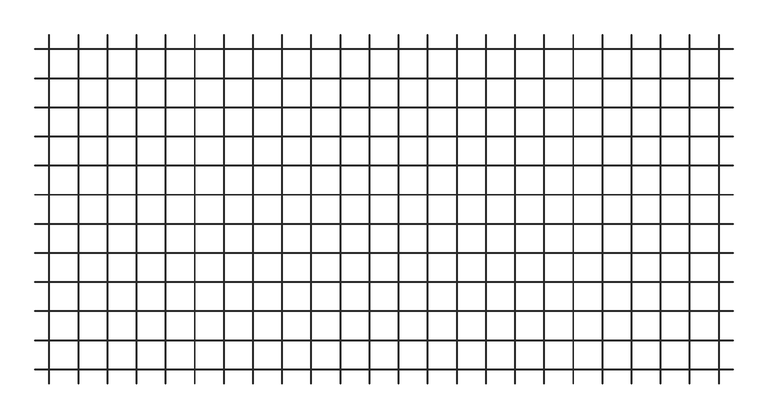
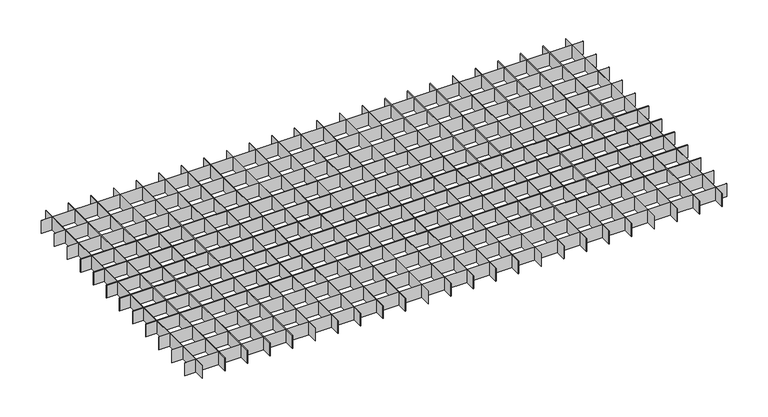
"""IFC4 building model written with IfcOpenShell, lengths in millimetres: proxy geometry, durlum_QUADRA_panel : durlum_QUADRA."""

from ifc_helpers import new_model, si_unit, origin, origin_with_axes, place, context, project, spatial, polyline, outline, extrude, source, transform, mapped, element, save


def generic_models_8e35020f(model_context):
    return source(origin(), model_context, "Body", "SweptSolid", [
        extrude(outline(polyline([(524.6, 299.5), (525.4, 299.5), (525.4, -299.5), (524.6, -299.5), (524.6, 299.5)])), origin_with_axes(), (0.0, 0.0, 1.0), 30.0),
        extrude(outline(polyline([(474.6, 299.5), (475.4, 299.5), (475.4, -299.5), (474.6, -299.5), (474.6, 299.5)])), origin_with_axes(), (0.0, 0.0, 1.0), 30.0),
        extrude(outline(polyline([(424.6, 299.5), (425.4, 299.5), (425.4, -299.5), (424.6, -299.5), (424.6, 299.5)])), origin_with_axes(), (0.0, 0.0, 1.0), 30.0),
        extrude(outline(polyline([(374.6, 299.5), (375.4, 299.5), (375.4, -299.5), (374.6, -299.5), (374.6, 299.5)])), origin_with_axes(), (0.0, 0.0, 1.0), 30.0),
        extrude(outline(polyline([(324.6, 299.5), (325.4, 299.5), (325.4, -299.5), (324.6, -299.5), (324.6, 299.5)])), origin_with_axes(), (0.0, 0.0, 1.0), 30.0),
        extrude(outline(polyline([(274.6, 299.5), (275.4, 299.5), (275.4, -299.5), (274.6, -299.5), (274.6, 299.5)])), origin_with_axes(), (0.0, 0.0, 1.0), 30.0),
        extrude(outline(polyline([(224.6, 299.5), (225.4, 299.5), (225.4, -299.5), (224.6, -299.5), (224.6, 299.5)])), origin_with_axes(), (0.0, 0.0, 1.0), 30.0),
        extrude(outline(polyline([(174.6, 299.5), (175.4, 299.5), (175.4, -299.5), (174.6, -299.5), (174.6, 299.5)])), origin_with_axes(), (0.0, 0.0, 1.0), 30.0),
        extrude(outline(polyline([(124.6, 299.5), (125.4, 299.5), (125.4, -299.5), (124.6, -299.5), (124.6, 299.5)])), origin_with_axes(), (0.0, 0.0, 1.0), 30.0),
        extrude(outline(polyline([(599.5, -224.6), (599.5, -225.4), (-599.5, -225.4), (-599.5, -224.6), (599.5, -224.6)])), origin_with_axes(), (0.0, 0.0, 1.0), 30.0),
        extrude(outline(polyline([(599.5, -174.6), (599.5, -175.4), (-599.5, -175.4), (-599.5, -174.6), (599.5, -174.6)])), origin_with_axes(), (0.0, 0.0, 1.0), 30.0),
        extrude(outline(polyline([(599.5, -124.6), (599.5, -125.4), (-599.5, -125.4), (-599.5, -124.6), (599.5, -124.6)])), origin_with_axes(), (0.0, 0.0, 1.0), 30.0),
        extrude(outline(polyline([(599.5, -74.6), (599.5, -75.4), (-599.5, -75.4), (-599.5, -74.6), (599.5, -74.6)])), origin_with_axes(), (0.0, 0.0, 1.0), 30.0),
        extrude(outline(polyline([(74.6, 299.5), (75.4, 299.5), (75.4, -299.5), (74.6, -299.5), (74.6, 299.5)])), origin_with_axes(), (0.0, 0.0, 1.0), 30.0),
        extrude(outline(polyline([(24.6, 299.5), (25.4, 299.5), (25.4, -299.5), (24.6, -299.5), (24.6, 299.5)])), origin_with_axes(), (0.0, 0.0, 1.0), 30.0),
        extrude(outline(polyline([(-25.4, 299.5), (-24.6, 299.5), (-24.6, -299.5), (-25.4, -299.5), (-25.4, 299.5)])), origin_with_axes(), (0.0, 0.0, 1.0), 30.0),
        extrude(outline(polyline([(-75.4, 299.5), (-74.6, 299.5), (-74.6, -299.5), (-75.4, -299.5), (-75.4, 299.5)])), origin_with_axes(), (0.0, 0.0, 1.0), 30.0),
        extrude(outline(polyline([(-125.4, 299.5), (-124.6, 299.5), (-124.6, -299.5), (-125.4, -299.5), (-125.4, 299.5)])), origin_with_axes(), (0.0, 0.0, 1.0), 30.0),
        extrude(outline(polyline([(-175.4, 299.5), (-174.6, 299.5), (-174.6, -299.5), (-175.4, -299.5), (-175.4, 299.5)])), origin_with_axes(), (0.0, 0.0, 1.0), 30.0),
        extrude(outline(polyline([(-225.4, 299.5), (-224.6, 299.5), (-224.6, -299.5), (-225.4, -299.5), (-225.4, 299.5)])), origin_with_axes(), (0.0, 0.0, 1.0), 30.0),
        extrude(outline(polyline([(-275.4, 299.5), (-274.6, 299.5), (-274.6, -299.5), (-275.4, -299.5), (-275.4, 299.5)])), origin_with_axes(), (0.0, 0.0, 1.0), 30.0),
        extrude(outline(polyline([(-325.4, 299.5), (-324.6, 299.5), (-324.6, -299.5), (-325.4, -299.5), (-325.4, 299.5)])), origin_with_axes(), (0.0, 0.0, 1.0), 30.0),
        extrude(outline(polyline([(-375.4, 299.5), (-374.6, 299.5), (-374.6, -299.5), (-375.4, -299.5), (-375.4, 299.5)])), origin_with_axes(), (0.0, 0.0, 1.0), 30.0),
        extrude(outline(polyline([(-425.4, 299.5), (-424.6, 299.5), (-424.6, -299.5), (-425.4, -299.5), (-425.4, 299.5)])), origin_with_axes(), (0.0, 0.0, 1.0), 30.0),
        extrude(outline(polyline([(-475.4, 299.5), (-474.6, 299.5), (-474.6, -299.5), (-475.4, -299.5), (-475.4, 299.5)])), origin_with_axes(), (0.0, 0.0, 1.0), 30.0),
        extrude(outline(polyline([(-525.4, 299.5), (-524.6, 299.5), (-524.6, -299.5), (-525.4, -299.5), (-525.4, 299.5)])), origin_with_axes(), (0.0, 0.0, 1.0), 30.0),
        extrude(outline(polyline([(599.5, -24.6), (599.5, -25.4), (-599.5, -25.4), (-599.5, -24.6), (599.5, -24.6)])), origin_with_axes(), (0.0, 0.0, 1.0), 30.0),
        extrude(outline(polyline([(599.5, 25.4), (599.5, 24.6), (-599.5, 24.6), (-599.5, 25.4), (599.5, 25.4)])), origin_with_axes(), (0.0, 0.0, 1.0), 30.0),
        extrude(outline(polyline([(599.5, 75.4), (599.5, 74.6), (-599.5, 74.6), (-599.5, 75.4), (599.5, 75.4)])), origin_with_axes(), (0.0, 0.0, 1.0), 30.0),
        extrude(outline(polyline([(599.5, 125.4), (599.5, 124.6), (-599.5, 124.6), (-599.5, 125.4), (599.5, 125.4)])), origin_with_axes(), (0.0, 0.0, 1.0), 30.0),
        extrude(outline(polyline([(599.5, 175.4), (599.5, 174.6), (-599.5, 174.6), (-599.5, 175.4), (599.5, 175.4)])), origin_with_axes(), (0.0, 0.0, 1.0), 30.0),
        extrude(outline(polyline([(599.5, 225.4), (599.5, 224.6), (-599.5, 224.6), (-599.5, 225.4), (599.5, 225.4)])), origin_with_axes(), (0.0, 0.0, 1.0), 30.0),
        extrude(outline(polyline([(574.6, 299.5), (575.4, 299.5), (575.4, -299.5), (574.6, -299.5), (574.6, 299.5)])), origin_with_axes(), (0.0, 0.0, 1.0), 30.0),
        extrude(outline(polyline([(-575.4, 299.5), (-574.6, 299.5), (-574.6, -299.5), (-575.4, -299.5), (-575.4, 299.5)])), origin_with_axes(), (0.0, 0.0, 1.0), 30.0),
        extrude(outline(polyline([(599.5, -274.6), (599.5, -275.4), (-599.5, -275.4), (-599.5, -274.6), (599.5, -274.6)])), origin_with_axes(), (0.0, 0.0, 1.0), 30.0),
        extrude(outline(polyline([(599.5, 275.4), (599.5, 274.6), (-599.5, 274.6), (-599.5, 275.4), (599.5, 275.4)])), origin_with_axes(), (0.0, 0.0, 1.0), 30.0),
    ])


if __name__ == "__main__":
    model = new_model("IFC4")
    model_context = context("Model", 3, world=origin())
    ifc_project = project(units=[si_unit("LENGTHUNIT", "METRE", prefix="MILLI")], contexts=[model_context])
    site = spatial("IfcSite", under=ifc_project)
    building = spatial("IfcBuilding", under=site)
    placement = place(None, origin())
    generic_models_shape = generic_models_8e35020f(model_context)
    element("IfcBuildingElementProxy", 1, Name="durlum_QUADRA_panel : durlum_QUADRA", ObjectType="durlum_QUADRA_panel : durlum_QUADRA", at=placement, inside=building, context=model_context, shape_type="MappedRepresentation", body=[
        mapped(generic_models_shape, transform((0.0, 0.0, 0.0), x_axis=(1.0, 0.0, 0.0), y_axis=(0.0, 1.0, 0.0), z_axis=(0.0, 0.0, 1.0))),
    ])
    save(model, "model.ifc")
